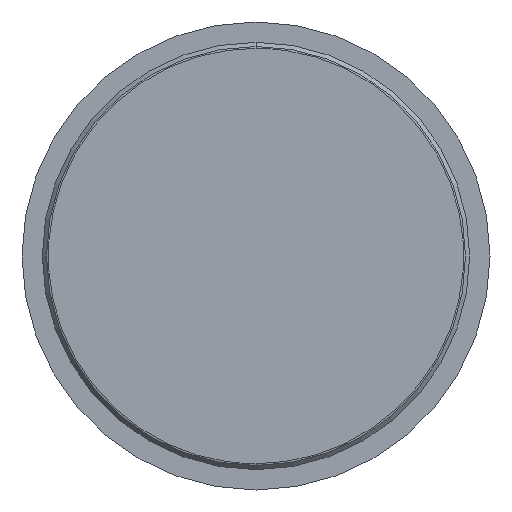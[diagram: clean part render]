
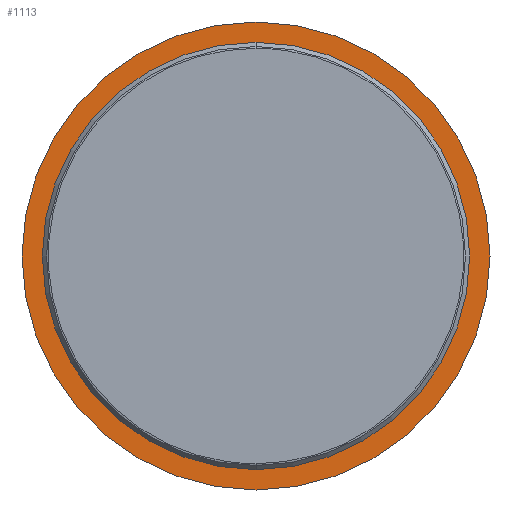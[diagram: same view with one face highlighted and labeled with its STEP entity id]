
A CAD part, front view. The second image highlights one B-rep face of the part: STEP entity #1113.
In plain terms, the highlighted planar face has unit normal (0, -1, 0).
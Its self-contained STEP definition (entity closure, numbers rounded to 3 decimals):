
#216 = AXIS2_PLACEMENT_3D ( 'NONE', #1357, #1359, #1360 ) ;
#237 = AXIS2_PLACEMENT_3D ( 'NONE', #1369, #1376, #1377 ) ;
#390 = FACE_BOUND ( 'NONE', #1995, .T. ) ;
#393 = FACE_OUTER_BOUND ( 'NONE', #2011, .T. ) ;
#517 = AXIS2_PLACEMENT_3D ( 'NONE', #676, #679, #680 ) ;
#676 = CARTESIAN_POINT ( 'NONE',  ( -28.1, 11., 0. ) ) ;
#677 = PLANE ( 'NONE',  #517 ) ;
#679 = DIRECTION ( 'NONE',  ( 0., -1., 0. ) ) ;
#680 = DIRECTION ( 'NONE',  ( 0., 0., -1. ) ) ;
#711 = CARTESIAN_POINT ( 'NONE',  ( 0., 11., -28.75 ) ) ;
#731 = CARTESIAN_POINT ( 'NONE',  ( 0., 11., -26.017 ) ) ;
#763 = CARTESIAN_POINT ( 'NONE',  ( 0., 11., 26.017 ) ) ;
#873 = CARTESIAN_POINT ( 'NONE',  ( 0., 11., 28.75 ) ) ;
#926 = VERTEX_POINT ( 'NONE', #873 ) ;
#949 = EDGE_CURVE ( 'NONE', #1890, #1926, #1859, .T. ) ;
#956 = EDGE_CURVE ( 'NONE', #926, #1875, #1851, .T. ) ;
#973 = AXIS2_PLACEMENT_3D ( 'NONE', #1202, #1203, #1204 ) ;
#980 = AXIS2_PLACEMENT_3D ( 'NONE', #1223, #1224, #1225 ) ;
#994 = EDGE_CURVE ( 'NONE', #1875, #926, #1842, .T. ) ;
#1000 = EDGE_CURVE ( 'NONE', #1926, #1890, #1831, .T. ) ;
#1113 = ADVANCED_FACE ( 'NONE', ( #390, #393 ), #677, .T. ) ;
#1202 = CARTESIAN_POINT ( 'NONE',  ( 0., 11., 0. ) ) ;
#1203 = DIRECTION ( 'NONE',  ( 0., -1., 0. ) ) ;
#1204 = DIRECTION ( 'NONE',  ( 0., 0., 1. ) ) ;
#1223 = CARTESIAN_POINT ( 'NONE',  ( 0., 11., 0. ) ) ;
#1224 = DIRECTION ( 'NONE',  ( 0., -1., 0. ) ) ;
#1225 = DIRECTION ( 'NONE',  ( 0., 0., 1. ) ) ;
#1357 = CARTESIAN_POINT ( 'NONE',  ( 0., 11., 0. ) ) ;
#1359 = DIRECTION ( 'NONE',  ( 0., -1., 0. ) ) ;
#1360 = DIRECTION ( 'NONE',  ( 0., 0., 1. ) ) ;
#1369 = CARTESIAN_POINT ( 'NONE',  ( 0., 11., 0. ) ) ;
#1376 = DIRECTION ( 'NONE',  ( 0., -1., 0. ) ) ;
#1377 = DIRECTION ( 'NONE',  ( 0., 0., 1. ) ) ;
#1831 = CIRCLE ( 'NONE', #237, 26.017 ) ;
#1842 = CIRCLE ( 'NONE', #216, 28.75 ) ;
#1851 = CIRCLE ( 'NONE', #980, 28.75 ) ;
#1859 = CIRCLE ( 'NONE', #973, 26.017 ) ;
#1875 = VERTEX_POINT ( 'NONE', #711 ) ;
#1890 = VERTEX_POINT ( 'NONE', #731 ) ;
#1926 = VERTEX_POINT ( 'NONE', #763 ) ;
#1995 = EDGE_LOOP ( 'NONE', ( #2046, #2045 ) ) ;
#2011 = EDGE_LOOP ( 'NONE', ( #2044, #2037 ) ) ;
#2037 = ORIENTED_EDGE ( 'NONE', *, *, #994, .T. ) ;
#2044 = ORIENTED_EDGE ( 'NONE', *, *, #956, .T. ) ;
#2045 = ORIENTED_EDGE ( 'NONE', *, *, #949, .F. ) ;
#2046 = ORIENTED_EDGE ( 'NONE', *, *, #1000, .F. ) ;
